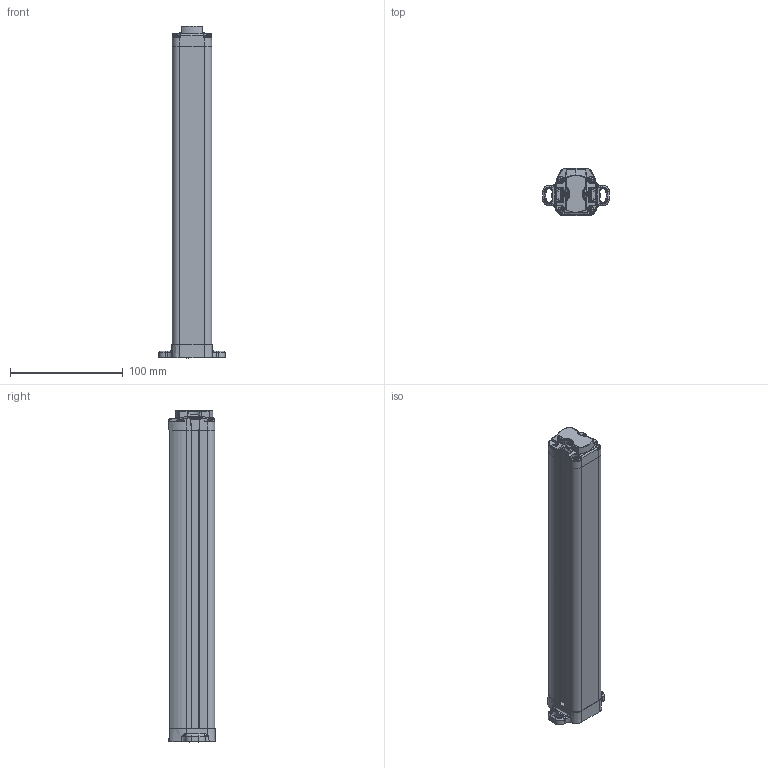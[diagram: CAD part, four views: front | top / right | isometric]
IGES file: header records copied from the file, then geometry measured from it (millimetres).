
Global section: file name: C:\Users\lrossetti\Desktop\Nuova cartella\DSD-0588.igs; native system: NX V7.5; preprocessor: SIEMENS PLM Software NX 7.5; date: 20131001.093355; units: millimetre
Bounding box: 59 x 41.56 x 294 mm (x, y, z)
Surface area: 57404.3 mm2 (no closed solid volume)
Topology: 0 solids, 0 shells, 873 faces, 4765 edges, 4721 vertices
Faces by surface type: bspline 873
